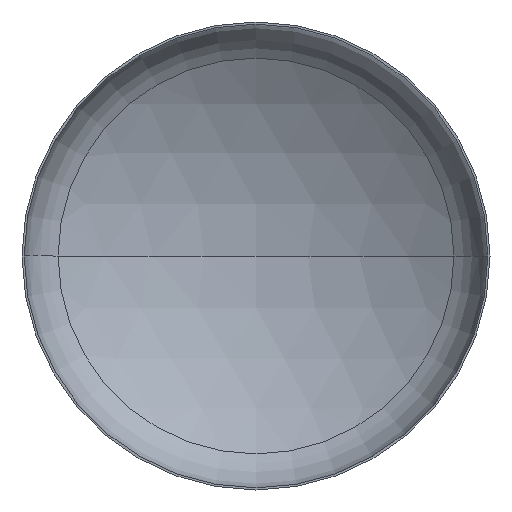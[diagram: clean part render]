
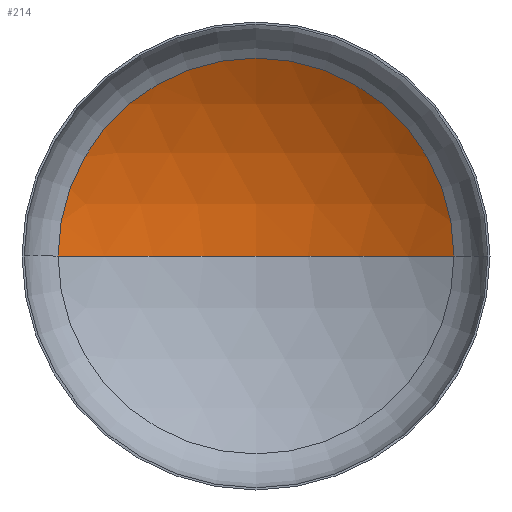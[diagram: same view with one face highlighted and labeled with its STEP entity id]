
A CAD part, front view. The second image highlights one B-rep face of the part: STEP entity #214.
In plain terms, the highlighted spherical face has radius 2080 mm.
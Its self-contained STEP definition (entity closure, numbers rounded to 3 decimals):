
#7 = ORIENTED_EDGE ( 'NONE', *, *, #372, .T. ) ;
#8 = AXIS2_PLACEMENT_3D ( 'NONE', #115, #17, #12 ) ;
#12 = DIRECTION ( 'NONE',  ( 1., 0., 0. ) ) ;
#17 = DIRECTION ( 'NONE',  ( 0., -1., 0. ) ) ;
#47 = AXIS2_PLACEMENT_3D ( 'NONE', #204, #300, #294 ) ;
#72 = EDGE_LOOP ( 'NONE', ( #276, #111, #7 ) ) ;
#84 = VERTEX_POINT ( 'NONE', #317 ) ;
#99 = CARTESIAN_POINT ( 'NONE',  ( 0., -1386.133, 0. ) ) ;
#111 = ORIENTED_EDGE ( 'NONE', *, *, #392, .T. ) ;
#115 = CARTESIAN_POINT ( 'NONE',  ( 0., 379.556, 0. ) ) ;
#156 = VERTEX_POINT ( 'NONE', #310 ) ;
#158 = DIRECTION ( 'NONE',  ( -1., 0., 0. ) ) ;
#171 = DIRECTION ( 'NONE',  ( 0., 0., -1. ) ) ;
#178 = DIRECTION ( 'NONE',  ( 0., 0., 1. ) ) ;
#193 = CARTESIAN_POINT ( 'NONE',  ( 0., 693.867, 0. ) ) ;
#202 = CARTESIAN_POINT ( 'NONE',  ( 0., -1386.133, 0. ) ) ;
#204 = CARTESIAN_POINT ( 'NONE',  ( 0., -1386.133, 0. ) ) ;
#211 = DIRECTION ( 'NONE',  ( 1., 0., 0. ) ) ;
#214 = ADVANCED_FACE ( 'NONE', ( #353 ), #287, .F. ) ;
#241 = CIRCLE ( 'NONE', #298, 2080. ) ;
#247 = CIRCLE ( 'NONE', #274, 2080. ) ;
#269 = VERTEX_POINT ( 'NONE', #193 ) ;
#274 = AXIS2_PLACEMENT_3D ( 'NONE', #99, #171, #158 ) ;
#276 = ORIENTED_EDGE ( 'NONE', *, *, #398, .F. ) ;
#287 = SPHERICAL_SURFACE ( 'NONE', #47, 2080. ) ;
#294 = DIRECTION ( 'NONE',  ( -1., 0., 0. ) ) ;
#298 = AXIS2_PLACEMENT_3D ( 'NONE', #202, #178, #211 ) ;
#300 = DIRECTION ( 'NONE',  ( 0., 0., -1. ) ) ;
#310 = CARTESIAN_POINT ( 'NONE',  ( -1099.429, 379.556, 0. ) ) ;
#311 = CIRCLE ( 'NONE', #8, 1099.429 ) ;
#317 = CARTESIAN_POINT ( 'NONE',  ( 1099.429, 379.556, 0. ) ) ;
#353 = FACE_OUTER_BOUND ( 'NONE', #72, .T. ) ;
#372 = EDGE_CURVE ( 'NONE', #84, #156, #311, .T. ) ;
#392 = EDGE_CURVE ( 'NONE', #269, #84, #247, .T. ) ;
#398 = EDGE_CURVE ( 'NONE', #269, #156, #241, .T. ) ;
